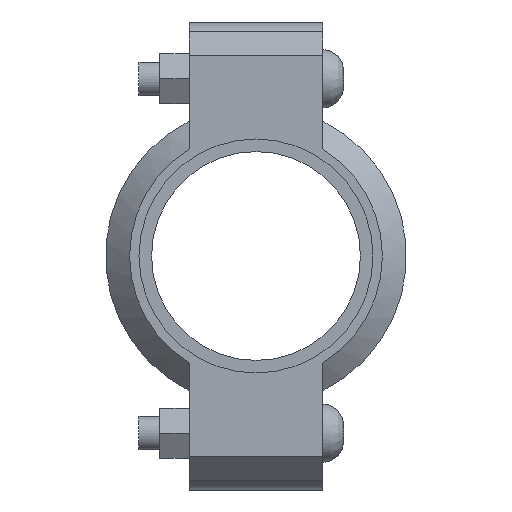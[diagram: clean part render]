
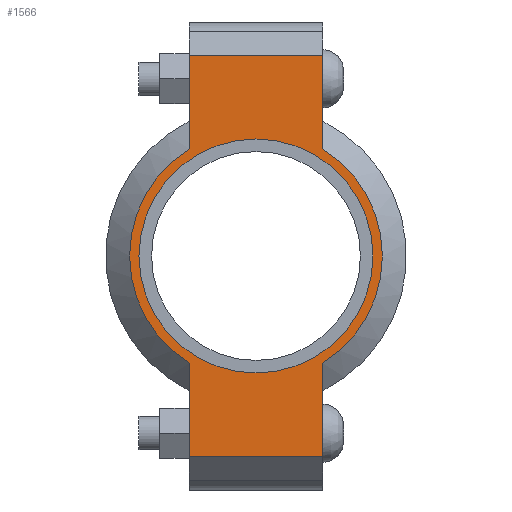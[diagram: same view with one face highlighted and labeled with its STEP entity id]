
A CAD part, left-side view. The second image highlights one B-rep face of the part: STEP entity #1566.
In plain terms, the highlighted planar face has unit normal (-1, 0, 0) as drawn and (0, 0, 1) by its records, which use the part's own axes.
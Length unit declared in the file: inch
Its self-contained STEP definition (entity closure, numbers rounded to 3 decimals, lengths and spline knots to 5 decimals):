
#190=LINE('',#2724,#283);
#198=LINE('',#2760,#291);
#205=LINE('',#2781,#298);
#214=LINE('',#2813,#307);
#215=LINE('',#2817,#308);
#216=LINE('',#2819,#309);
#283=VECTOR('',#2216,0.3937);
#291=VECTOR('',#2232,0.3937);
#298=VECTOR('',#2251,0.3937);
#307=VECTOR('',#2276,0.3937);
#308=VECTOR('',#2281,0.3937);
#309=VECTOR('',#2282,0.3937);
#365=FACE_BOUND('',#543,.T.);
#437=FACE_OUTER_BOUND('',#542,.T.);
#542=EDGE_LOOP('',(#1307,#1308,#1309,#1310,#1311,#1312,#1313,#1314));
#543=EDGE_LOOP('',(#1315));
#615=CIRCLE('',#1776,1.75);
#641=CIRCLE('',#1835,1.89);
#642=CIRCLE('',#1836,1.89);
#707=VERTEX_POINT('',#2540);
#750=VERTEX_POINT('',#2721);
#751=VERTEX_POINT('',#2723);
#762=VERTEX_POINT('',#2755);
#763=VERTEX_POINT('',#2759);
#770=VERTEX_POINT('',#2778);
#771=VERTEX_POINT('',#2780);
#781=VERTEX_POINT('',#2816);
#782=VERTEX_POINT('',#2818);
#863=EDGE_CURVE('',#707,#707,#615,.T.);
#924=EDGE_CURVE('',#751,#750,#190,.T.);
#938=EDGE_CURVE('',#763,#762,#198,.T.);
#948=EDGE_CURVE('',#771,#770,#205,.T.);
#963=EDGE_CURVE('',#763,#750,#214,.T.);
#964=EDGE_CURVE('',#762,#771,#641,.T.);
#965=EDGE_CURVE('',#781,#770,#215,.T.);
#966=EDGE_CURVE('',#781,#782,#216,.T.);
#967=EDGE_CURVE('',#782,#751,#642,.T.);
#1307=ORIENTED_EDGE('',*,*,#963,.F.);
#1308=ORIENTED_EDGE('',*,*,#938,.T.);
#1309=ORIENTED_EDGE('',*,*,#964,.T.);
#1310=ORIENTED_EDGE('',*,*,#948,.T.);
#1311=ORIENTED_EDGE('',*,*,#965,.F.);
#1312=ORIENTED_EDGE('',*,*,#966,.T.);
#1313=ORIENTED_EDGE('',*,*,#967,.T.);
#1314=ORIENTED_EDGE('',*,*,#924,.T.);
#1315=ORIENTED_EDGE('',*,*,#863,.T.);
#1408=PLANE('',#1834);
#1566=ADVANCED_FACE('',(#437,#365),#1408,.T.);
#1776=AXIS2_PLACEMENT_3D('',#2542,#2092,#2093);
#1834=AXIS2_PLACEMENT_3D('',#2814,#2277,#2278);
#1835=AXIS2_PLACEMENT_3D('',#2815,#2279,#2280);
#1836=AXIS2_PLACEMENT_3D('',#2820,#2283,#2284);
#2092=DIRECTION('center_axis',(0.,0.,-1.));
#2093=DIRECTION('ref_axis',(-1.,0.,0.));
#2216=DIRECTION('',(-1.,0.,0.));
#2232=DIRECTION('',(1.,0.,0.));
#2251=DIRECTION('',(1.,0.,0.));
#2276=DIRECTION('',(0.,1.,0.));
#2277=DIRECTION('center_axis',(0.,0.,1.));
#2278=DIRECTION('ref_axis',(1.,0.,0.));
#2279=DIRECTION('center_axis',(0.,0.,1.));
#2280=DIRECTION('ref_axis',(-1.,0.,0.));
#2281=DIRECTION('',(0.,-1.,0.));
#2282=DIRECTION('',(-1.,0.,0.));
#2283=DIRECTION('center_axis',(0.,0.,1.));
#2284=DIRECTION('ref_axis',(-1.,0.,0.));
#2540=CARTESIAN_POINT('',(1.75,0.,0.94));
#2542=CARTESIAN_POINT('Origin',(0.,0.,0.94));
#2721=CARTESIAN_POINT('',(-3.,1.,0.94));
#2723=CARTESIAN_POINT('',(-1.60378,1.,0.94));
#2724=CARTESIAN_POINT('',(-3.5,1.,0.94));
#2755=CARTESIAN_POINT('',(-1.60378,-1.,0.94));
#2759=CARTESIAN_POINT('',(-3.,-1.,0.94));
#2760=CARTESIAN_POINT('',(3.5,-1.,0.94));
#2778=CARTESIAN_POINT('',(3.,-1.,0.94));
#2780=CARTESIAN_POINT('',(1.60378,-1.,0.94));
#2781=CARTESIAN_POINT('',(3.5,-1.,0.94));
#2813=CARTESIAN_POINT('',(-3.,0.5,0.94));
#2814=CARTESIAN_POINT('Origin',(0.,0.,
0.94));
#2815=CARTESIAN_POINT('Origin',(0.,0.,0.94));
#2816=CARTESIAN_POINT('',(3.,1.,0.94));
#2817=CARTESIAN_POINT('',(3.,-0.5,0.94));
#2818=CARTESIAN_POINT('',(1.60378,1.,0.94));
#2819=CARTESIAN_POINT('',(-3.5,1.,0.94));
#2820=CARTESIAN_POINT('Origin',(0.,0.,0.94));
